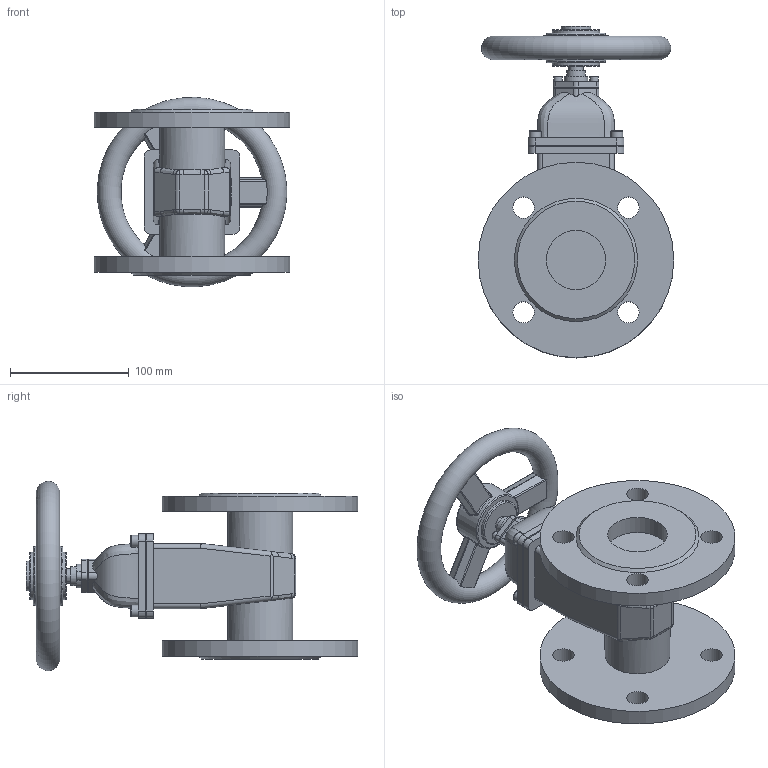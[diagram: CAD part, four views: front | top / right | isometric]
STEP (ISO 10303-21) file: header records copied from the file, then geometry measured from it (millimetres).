
FILE_DESCRIPTION(('STEP AP242'), '1');
FILE_NAME('GVWN1414N-2W-F-S blue Çàäâèæêà êëèíîâàÿ ñ íåâèäâèæíûì øòîêîì DN.ru Äó50 Ðó10-16', '', ('UNSPECIFIED'), ('UNSPECIFIED'), 'C3D Converter', 'C3D Toolkit', '');
FILE_SCHEMA(('AP242_MANAGED_MODEL_BASED_3D_ENGINEERING_MIM_LF { 1 0 10303 442 1 1 4 }'));
Length unit declared in the file: millimetre
Products named in the file (1): GVWN1414N-2W-F-S blue
Bounding box: 165 x 280 x 159.67 mm (x, y, z)
Volume: 1448213.1 mm3; surface area: 204233.5 mm2
Topology: 1 solids, 1 shells, 351 faces, 894 edges, 567 vertices
Faces by surface type: plane 153, cylinder 94, bspline 44, extrusion 27, torus 17, cone 8, sphere 8
Full cylindrical faces by diameter (mm): 4 x2, 6 x4, 7 x2, 10 x4, 12 x1, 16 x1, 18 x8, 20 x2, 25 x1, 40 x2, 50 x3, 55 x2, 165 x2
Entity records: 20236 total; most frequent: CARTESIAN_POINT 11337, ORIENTED_EDGE 1646, DIRECTION 1296, EDGE_CURVE 823, VERTEX_POINT 558, EDGE_LOOP 467, AXIS2_PLACEMENT_3D 453, VECTOR 390
